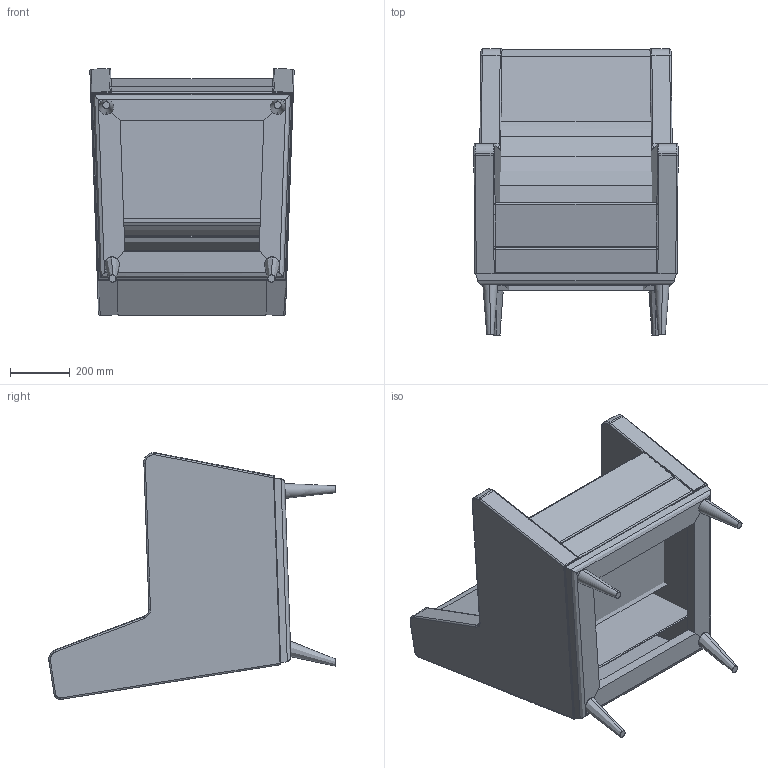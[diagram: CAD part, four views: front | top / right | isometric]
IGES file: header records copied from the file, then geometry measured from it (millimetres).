
Start section: SolidWorks IGES file using analytic representation for surfaces
Global section: file name: C:\Users\adao\Documents\Trab Adao\Desenho técnico PRODUÇÃO\J M S\Linha GERIATRIA\MORGANA\3D Morgana\Poltrona Morgana SG-853.IGS; native system: SolidWorks 2015; preprocessor: SolidWorks 2015; author: Adao; date: 150925.143930; units: millimetre
Bounding box: 686.71 x 962.45 x 829.81 mm (x, y, z)
Surface area: 4370047.1 mm2 (no closed solid volume)
Topology: 0 solids, 0 shells, 151 faces, 1434 edges, 1432 vertices
Faces by surface type: bspline 76, revolution 75
